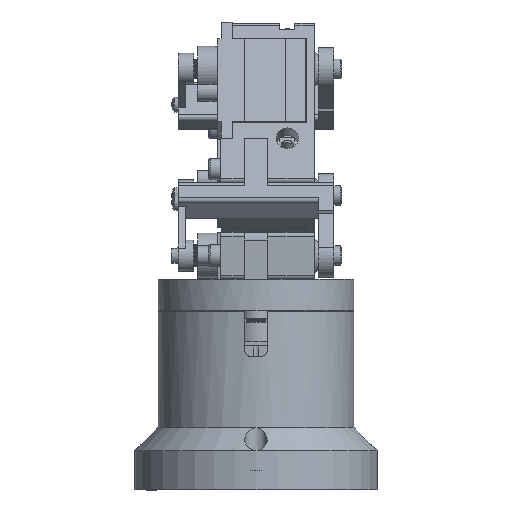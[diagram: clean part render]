
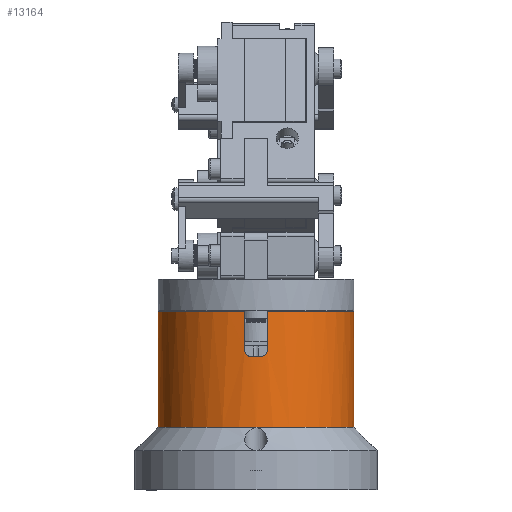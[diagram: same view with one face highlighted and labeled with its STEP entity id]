
A CAD part, left-side view. The second image highlights one B-rep face of the part: STEP entity #13164.
In plain terms, the highlighted cylindrical face has radius 25 mm (diameter 50 mm), a full revolution.
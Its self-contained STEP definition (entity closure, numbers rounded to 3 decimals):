
#246=B_SPLINE_CURVE_WITH_KNOTS('',3,(#20072,#20073,#20074,#20075,#20076,
#20077,#20078,#20079,#20080,#20081),.UNSPECIFIED.,.F.,.F.,(4,2,2,2,4),(-0.302,
-0.226,-0.151,-0.075,0.),
 .UNSPECIFIED.);
#249=B_SPLINE_CURVE_WITH_KNOTS('',3,(#20118,#20119,#20120,#20121,#20122,
#20123,#20124,#20125,#20126,#20127),.UNSPECIFIED.,.F.,.F.,(4,2,2,2,4),(0.,
0.075,0.151,0.226,0.302),
 .UNSPECIFIED.);
#1098=FACE_OUTER_BOUND('',#1833,.T.);
#1833=EDGE_LOOP('',(#9616,#9617,#9618,#9619,#9620,#9621,#9622,#9623,#9624,
#9625,#9626));
#2652=LINE('',#20098,#4068);
#2659=LINE('',#20134,#4075);
#2672=LINE('',#20168,#4088);
#4068=VECTOR('',#16022,10.);
#4075=VECTOR('',#16033,10.);
#4088=VECTOR('',#16058,25.);
#5360=CIRCLE('',#14336,25.);
#5361=CIRCLE('',#14337,25.);
#5368=CIRCLE('',#14355,25.);
#5369=CIRCLE('',#14356,25.);
#5370=CIRCLE('',#14357,25.);
#5915=VERTEX_POINT('',#20002);
#5916=VERTEX_POINT('',#20004);
#5923=VERTEX_POINT('',#20070);
#5924=VERTEX_POINT('',#20071);
#5927=VERTEX_POINT('',#20097);
#5931=VERTEX_POINT('',#20115);
#5932=VERTEX_POINT('',#20117);
#5934=VERTEX_POINT('',#20132);
#5949=VERTEX_POINT('',#20167);
#7312=EDGE_CURVE('',#5915,#5916,#5360,.T.);
#7313=EDGE_CURVE('',#5916,#5915,#5361,.T.);
#7323=EDGE_CURVE('',#5923,#5924,#246,.T.);
#7327=EDGE_CURVE('',#5924,#5927,#2652,.T.);
#7332=EDGE_CURVE('',#5931,#5932,#249,.T.);
#7336=EDGE_CURVE('',#5931,#5934,#2659,.T.);
#7352=EDGE_CURVE('',#5916,#5949,#2672,.T.);
#7353=EDGE_CURVE('',#5927,#5949,#5368,.T.);
#7354=EDGE_CURVE('',#5923,#5932,#5369,.T.);
#7355=EDGE_CURVE('',#5949,#5934,#5370,.T.);
#9616=ORIENTED_EDGE('',*,*,#7312,.F.);
#9617=ORIENTED_EDGE('',*,*,#7313,.F.);
#9618=ORIENTED_EDGE('',*,*,#7352,.T.);
#9619=ORIENTED_EDGE('',*,*,#7353,.F.);
#9620=ORIENTED_EDGE('',*,*,#7327,.F.);
#9621=ORIENTED_EDGE('',*,*,#7323,.F.);
#9622=ORIENTED_EDGE('',*,*,#7354,.T.);
#9623=ORIENTED_EDGE('',*,*,#7332,.F.);
#9624=ORIENTED_EDGE('',*,*,#7336,.T.);
#9625=ORIENTED_EDGE('',*,*,#7355,.F.);
#9626=ORIENTED_EDGE('',*,*,#7352,.F.);
#12878=CYLINDRICAL_SURFACE('',#14354,25.);
#13164=ADVANCED_FACE('',(#1098),#12878,.T.);
#14336=AXIS2_PLACEMENT_3D('',#20005,#15996,#15997);
#14337=AXIS2_PLACEMENT_3D('',#20006,#15998,#15999);
#14354=AXIS2_PLACEMENT_3D('',#20166,#16056,#16057);
#14355=AXIS2_PLACEMENT_3D('',#20169,#16059,#16060);
#14356=AXIS2_PLACEMENT_3D('',#20170,#16061,#16062);
#14357=AXIS2_PLACEMENT_3D('',#20171,#16063,#16064);
#15996=DIRECTION('center_axis',(0.,0.,1.));
#15997=DIRECTION('ref_axis',(-1.,0.,0.));
#15998=DIRECTION('center_axis',(0.,0.,1.));
#15999=DIRECTION('ref_axis',(-1.,0.,0.));
#16022=DIRECTION('',(0.,0.,-1.));
#16033=DIRECTION('',(0.,0.,-1.));
#16056=DIRECTION('center_axis',(0.,0.,1.));
#16057=DIRECTION('ref_axis',(1.,0.,0.));
#16058=DIRECTION('',(0.,0.,-1.));
#16059=DIRECTION('center_axis',(0.,0.,-1.));
#16060=DIRECTION('ref_axis',(0.993,-0.12,0.));
#16061=DIRECTION('center_axis',(0.,0.,1.));
#16062=DIRECTION('ref_axis',(1.,0.,0.));
#16063=DIRECTION('center_axis',(0.,0.,-1.));
#16064=DIRECTION('ref_axis',(0.993,-0.12,0.));
#20002=CARTESIAN_POINT('',(30.65,0.,18.));
#20004=CARTESIAN_POINT('',(-19.35,0.,18.));
#20005=CARTESIAN_POINT('Origin',(5.65,0.,
18.));
#20006=CARTESIAN_POINT('Origin',(5.65,0.,
18.));
#20070=CARTESIAN_POINT('',(30.63,-1.,0.));
#20071=CARTESIAN_POINT('',(30.469,-3.,-2.));
#20072=CARTESIAN_POINT('Ctrl Pts',(30.63,-1.,0.));
#20073=CARTESIAN_POINT('Ctrl Pts',(30.62,-1.252,0.));
#20074=CARTESIAN_POINT('Ctrl Pts',(30.605,-1.52,-0.05));
#20075=CARTESIAN_POINT('Ctrl Pts',(30.57,-2.013,-0.255));
#20076=CARTESIAN_POINT('Ctrl Pts',(30.55,-2.237,-0.409));
#20077=CARTESIAN_POINT('Ctrl Pts',(30.516,-2.592,-0.764));
#20078=CARTESIAN_POINT('Ctrl Pts',(30.499,-2.746,-0.988));
#20079=CARTESIAN_POINT('Ctrl Pts',(30.476,-2.95,-1.481));
#20080=CARTESIAN_POINT('Ctrl Pts',(30.469,-3.,-1.749));
#20081=CARTESIAN_POINT('Ctrl Pts',(30.469,-3.,-2.));
#20097=CARTESIAN_POINT('',(30.469,-3.,-11.5));
#20098=CARTESIAN_POINT('',(30.469,-3.,0.));
#20115=CARTESIAN_POINT('',(30.469,3.,-2.));
#20117=CARTESIAN_POINT('',(30.63,1.,0.));
#20118=CARTESIAN_POINT('Ctrl Pts',(30.469,3.,-2.));
#20119=CARTESIAN_POINT('Ctrl Pts',(30.469,3.,-1.749));
#20120=CARTESIAN_POINT('Ctrl Pts',(30.476,2.95,-1.481));
#20121=CARTESIAN_POINT('Ctrl Pts',(30.499,2.746,-0.988));
#20122=CARTESIAN_POINT('Ctrl Pts',(30.516,2.592,-0.764));
#20123=CARTESIAN_POINT('Ctrl Pts',(30.55,2.237,-0.409));
#20124=CARTESIAN_POINT('Ctrl Pts',(30.57,2.013,-0.255));
#20125=CARTESIAN_POINT('Ctrl Pts',(30.605,1.52,-0.05));
#20126=CARTESIAN_POINT('Ctrl Pts',(30.62,1.252,0.));
#20127=CARTESIAN_POINT('Ctrl Pts',(30.63,1.,0.));
#20132=CARTESIAN_POINT('',(30.469,3.,-11.5));
#20134=CARTESIAN_POINT('',(30.469,3.,0.));
#20166=CARTESIAN_POINT('Origin',(5.65,0.,
0.));
#20167=CARTESIAN_POINT('',(-19.35,0.,-11.5));
#20168=CARTESIAN_POINT('',(-19.35,0.,0.));
#20169=CARTESIAN_POINT('Origin',(5.65,0.,
-11.5));
#20170=CARTESIAN_POINT('Origin',(5.65,0.,
0.));
#20171=CARTESIAN_POINT('Origin',(5.65,0.,
-11.5));
